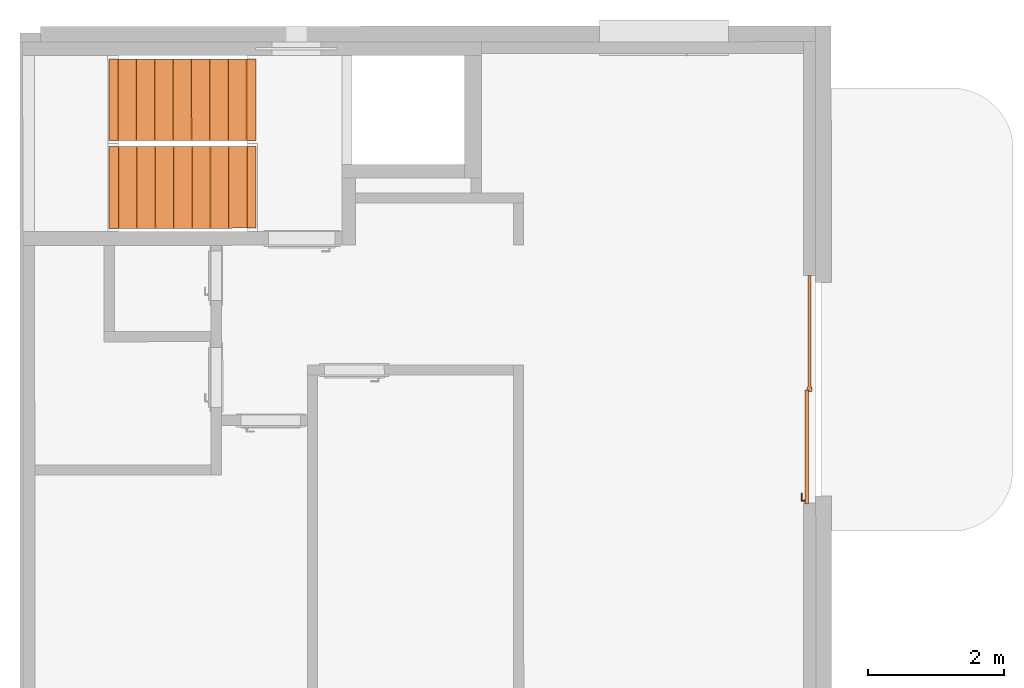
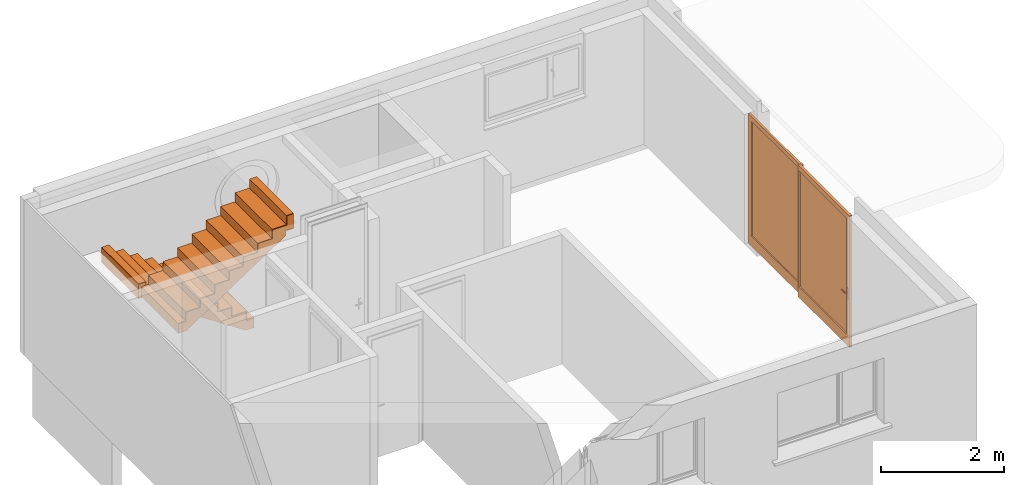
# One storey, part 7 of 9: 5 proxies.
"""IFC2X3 building model written with IfcOpenShell, lengths in metres."""

from ifc_helpers import new_model, entity, si_unit, converted_unit, derived_unit, direction, frame, origin, origin_with_axes, place, context, subcontext, project, spatial, closed_shell, open_shell, faceted_brep, surface_model, source, transform, mapped, element, save


model = new_model("IFC2X3")

# Units and contexts
model_context = context("Model", 3, precision=1e-05, world=origin(), true_north=direction((0.772621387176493, -0.634867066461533)))
body_context = subcontext(model_context, "Body", "Model", "MODEL_VIEW")
ifc_project = project(units=[si_unit("LENGTHUNIT", "METRE"), si_unit("AREAUNIT", "SQUARE_METRE"), si_unit("VOLUMEUNIT", "CUBIC_METRE"), si_unit("MASSUNIT", "GRAM", prefix="KILO"), converted_unit("PLANEANGLEUNIT", "DEGREE", entity("IfcPlaneAngleMeasure", 0.0174532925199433), si_unit("PLANEANGLEUNIT", "RADIAN"), dimensions=[0, 0, 0, 0, 0, 0, 0]), derived_unit("THERMALTRANSMITTANCEUNIT", [(si_unit("POWERUNIT", "WATT"), 1), (si_unit("THERMODYNAMICTEMPERATUREUNIT", "KELVIN"), -1), (si_unit("LENGTHUNIT", "METRE"), -2)]), derived_unit("VOLUMETRICFLOWRATEUNIT", [(si_unit("LENGTHUNIT", "METRE"), 3), (converted_unit("TIMEUNIT", "hour", entity("IfcTimeMeasure", 3600.0), si_unit("TIMEUNIT", "SECOND"), dimensions=[0, 0, 1, 0, 0, 0, 0]), -1), (si_unit("LENGTHUNIT", "METRE"), -1)])], contexts=[model_context])

# Site, building, storey
site_placement = place(None, origin())
site = spatial("IfcSite", under=ifc_project, at=site_placement, Name="Modelle auf dem Nullpunkt", CompositionType="ELEMENT")
building_placement = place(site_placement, origin())
building = spatial("IfcBuilding", under=site, at=building_placement, Name="I", CompositionType="ELEMENT")
storey_placement = place(building_placement, origin())
storey = spatial("IfcBuildingStorey", under=building, at=storey_placement, Name="1.OG", CompositionType="ELEMENT", Elevation=0.0)

# Proxies
shared_shape = source(origin_with_axes(), body_context, "Body", "SurfaceModel", [
    surface_model("IfcShellBasedSurfaceModel", [(1.65500000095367, 0.0, 2.59), (1.72500000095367, 0.0, 2.59), (1.72500000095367, 0.0, 0.02), (1.65500000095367, 0.0, 0.02), (1.65500000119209, 0.0699999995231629, 0.02), (1.72500000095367, 0.0699999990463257, 0.02), (1.72500000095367, 0.0699999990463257, 2.59), (1.65500000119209, 0.0699999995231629, 2.59)], [closed_shell([[[0, 1, 2, 3]], [[4, 5, 6, 7]], [[3, 4, 7, 0]], [[2, 5, 4, 3]], [[1, 6, 5, 2]], [[0, 7, 6, 1]]], orient=[[False], [False], [False], [False], [False], [False]])]),
    surface_model("IfcShellBasedSurfaceModel", [(0.0, 0.0499999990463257, 2.61), (0.100000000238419, 0.0499999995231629, 2.61), (0.100000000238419, 0.0499999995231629, 0.0), (0.0, 0.0499999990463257, 0.0), (0.0, 0.0999999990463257, 0.0), (0.1, 0.0999999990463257, 0.0), (0.1, 0.0999999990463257, 2.61), (0.0, 0.0999999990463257, 2.61)], [closed_shell([[[0, 1, 2, 3]], [[4, 5, 6, 7]], [[3, 4, 7, 0]], [[2, 5, 4, 3]], [[1, 6, 5, 2]], [[0, 7, 6, 1]]], orient=[[False], [False], [False], [False], [False], [False]])]),
    surface_model("IfcShellBasedSurfaceModel", [(1.63500000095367, 0.0499999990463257, 2.61), (1.67500000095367, 0.0499999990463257, 2.61), (1.67500000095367, 0.0499999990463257, 0.0), (1.63500000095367, 0.0499999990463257, 0.0), (1.63500000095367, 0.0999999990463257, 0.0), (1.67500000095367, 0.0999999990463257, 0.0), (1.67500000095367, 0.0999999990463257, 2.61), (1.63500000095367, 0.0999999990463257, 2.61)], [closed_shell([[[0, 1, 2, 3]], [[4, 5, 6, 7]], [[3, 4, 7, 0]], [[2, 5, 4, 3]], [[1, 6, 5, 2]], [[0, 7, 6, 1]]], orient=[[False], [False], [False], [False], [False], [False]])]),
    surface_model("IfcShellBasedSurfaceModel", [(0.100000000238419, 0.0499999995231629, 0.21), (1.63500000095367, 0.0499999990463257, 0.21), (1.63500000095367, 0.0499999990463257, 0.0), (0.100000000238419, 0.0499999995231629, 0.0), (0.1, 0.0999999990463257, 0.0), (1.63500000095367, 0.0999999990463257, 0.0), (1.63500000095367, 0.0999999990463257, 0.21), (0.1, 0.0999999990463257, 0.21)], [closed_shell([[[0, 1, 2, 3]], [[4, 5, 6, 7]], [[3, 4, 7, 0]], [[2, 5, 4, 3]], [[1, 6, 5, 2]], [[0, 7, 6, 1]]], orient=[[False], [False], [False], [False], [False], [False]])]),
    surface_model("IfcShellBasedSurfaceModel", [(0.100000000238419, 0.0499999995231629, 2.61), (1.63500000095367, 0.0499999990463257, 2.61), (1.63500000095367, 0.0499999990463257, 2.51), (0.100000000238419, 0.0499999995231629, 2.51), (0.1, 0.0999999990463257, 2.51), (1.63500000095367, 0.0999999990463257, 2.51), (1.63500000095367, 0.0999999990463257, 2.61), (0.1, 0.0999999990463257, 2.61)], [closed_shell([[[0, 1, 2, 3]], [[4, 5, 6, 7]], [[3, 4, 7, 0]], [[2, 5, 4, 3]], [[1, 6, 5, 2]], [[0, 7, 6, 1]]], orient=[[False], [False], [False], [False], [False], [False]])]),
    surface_model("IfcShellBasedSurfaceModel", [(0.0250000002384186, 0.0999999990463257, 1.145), (0.0750000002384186, 0.0999999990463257, 1.145), (0.0750000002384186, 0.0999999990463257, 0.93), (0.0250000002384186, 0.0999999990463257, 0.93), (0.0250000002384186, 0.109999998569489, 0.93), (0.0750000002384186, 0.109999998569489, 0.93), (0.0750000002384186, 0.109999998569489, 1.145), (0.0250000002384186, 0.109999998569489, 1.145)], [closed_shell([[[0, 1, 2, 3]], [[4, 5, 6, 7]], [[3, 4, 7, 0]], [[2, 5, 4, 3]], [[1, 6, 5, 2]], [[0, 7, 6, 1]]], orient=[[False], [False], [False], [False], [False], [False]])]),
    surface_model("IfcShellBasedSurfaceModel", [(0.05, 0.109999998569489, 1.08), (0.0550000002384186, 0.109999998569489, 1.07866025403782), (0.058660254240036, 0.109999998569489, 1.075), (0.0600000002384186, 0.109999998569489, 1.07), (0.058660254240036, 0.109999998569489, 1.065), (0.0550000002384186, 0.109999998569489, 1.06133974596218), (0.05, 0.109999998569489, 1.06), (0.0450000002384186, 0.109999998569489, 1.06133974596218), (0.0413397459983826, 0.109999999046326, 1.065), (0.0400000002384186, 0.109999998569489, 1.07), (0.0413397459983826, 0.109999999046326, 1.075), (0.0450000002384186, 0.109999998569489, 1.07866025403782), (0.045, 0.154999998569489, 1.07866025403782), (0.0500000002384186, 0.149999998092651, 1.08), (0.0413397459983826, 0.158660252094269, 1.075), (0.04, 0.159999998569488, 1.07), (0.0413397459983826, 0.158660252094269, 1.065), (0.045, 0.154999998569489, 1.06133974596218), (0.0500000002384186, 0.149999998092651, 1.06), (0.0550000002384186, 0.144999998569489, 1.06133974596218), (0.058660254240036, 0.141339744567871, 1.065), (0.0600000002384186, 0.139999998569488, 1.07), (0.058660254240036, 0.141339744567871, 1.075), (0.0550000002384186, 0.144999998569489, 1.07866025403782), (0.165000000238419, 0.149999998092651, 1.08), (0.165000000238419, 0.154999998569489, 1.07866025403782), (0.165000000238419, 0.158660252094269, 1.075), (0.165000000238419, 0.159999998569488, 1.07), (0.165000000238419, 0.158660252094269, 1.065), (0.165000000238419, 0.154999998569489, 1.06133974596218), (0.165000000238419, 0.149999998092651, 1.06), (0.165000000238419, 0.144999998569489, 1.06133974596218), (0.165000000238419, 0.141339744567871, 1.065), (0.165000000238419, 0.139999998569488, 1.07), (0.165000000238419, 0.141339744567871, 1.075), (0.165000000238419, 0.144999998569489, 1.07866025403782)], [closed_shell([[[0, 1, 2, 3, 4, 5, 6, 7, 8, 9, 10, 11]], [[0, 11, 12, 13]], [[11, 10, 14, 12]], [[10, 9, 15, 14]], [[9, 8, 16, 15]], [[8, 7, 17, 16]], [[7, 6, 18, 17]], [[6, 5, 19, 18]], [[5, 4, 20, 19]], [[4, 3, 21, 20]], [[3, 2, 22, 21]], [[2, 1, 23, 22]], [[1, 0, 13, 23]], [[24, 25, 26, 27, 28, 29, 30, 31, 32, 33, 34, 35]], [[13, 12, 25, 24]], [[12, 14, 26, 25]], [[14, 15, 27, 26]], [[15, 16, 28, 27]], [[16, 17, 29, 28]], [[17, 18, 30, 29]], [[18, 19, 31, 30]], [[19, 20, 32, 31]], [[20, 21, 33, 32]], [[21, 22, 34, 33]], [[22, 23, 35, 34]], [[23, 13, 24, 35]]], orient=[[False], [False], [False], [False], [False], [False], [False], [False], [False], [False], [False], [False], [False], [False], [False], [False], [False], [False], [False], [False], [False], [False], [False], [False], [False], [False]])]),
    surface_model("IfcShellBasedSurfaceModel", [(1.72500000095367, 0.015, 2.59), (1.74500000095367, 0.015, 2.59), (1.74500000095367, 0.015, 0.02), (1.72500000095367, 0.015, 0.02), (1.72500000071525, 0.0549999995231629, 0.02), (1.74500000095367, 0.0549999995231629, 0.02), (1.74500000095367, 0.0549999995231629, 2.59), (1.72500000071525, 0.0549999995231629, 2.59)], [closed_shell([[[0, 1, 2, 3]], [[4, 5, 6, 7]], [[3, 4, 7, 0]], [[2, 5, 4, 3]], [[1, 6, 5, 2]], [[0, 7, 6, 1]]], orient=[[False], [False], [False], [False], [False], [False]])]),
    surface_model("IfcShellBasedSurfaceModel", [(3.26000000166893, 0.015, 2.59), (3.36000000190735, 0.0149999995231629, 2.59), (3.36000000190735, 0.0149999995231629, 0.02), (3.26000000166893, 0.015, 0.02), (3.26000000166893, 0.0549999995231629, 0.02), (3.36000000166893, 0.055, 0.02), (3.36000000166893, 0.055, 2.59), (3.26000000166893, 0.0549999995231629, 2.59)], [closed_shell([[[0, 1, 2, 3]], [[4, 5, 6, 7]], [[3, 4, 7, 0]], [[2, 5, 4, 3]], [[1, 6, 5, 2]], [[0, 7, 6, 1]]], orient=[[False], [False], [False], [False], [False], [False]])]),
    surface_model("IfcShellBasedSurfaceModel", [(1.74500000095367, 0.015, 0.22), (3.26000000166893, 0.015, 0.22), (3.26000000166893, 0.015, 0.02), (1.74500000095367, 0.015, 0.02), (1.74500000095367, 0.0549999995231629, 0.02), (3.26000000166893, 0.0549999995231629, 0.02), (3.26000000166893, 0.0549999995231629, 0.22), (1.74500000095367, 0.0549999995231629, 0.22)], [closed_shell([[[0, 1, 2, 3]], [[4, 5, 6, 7]], [[3, 4, 7, 0]], [[2, 5, 4, 3]], [[1, 6, 5, 2]], [[0, 7, 6, 1]]], orient=[[False], [False], [False], [False], [False], [False]])]),
    surface_model("IfcShellBasedSurfaceModel", [(1.74500000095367, 0.015, 2.59), (3.26000000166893, 0.015, 2.59), (3.26000000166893, 0.015, 2.5), (1.74500000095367, 0.015, 2.5), (1.74500000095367, 0.0549999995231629, 2.5), (3.26000000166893, 0.0549999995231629, 2.5), (3.26000000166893, 0.0549999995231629, 2.59), (1.74500000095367, 0.0549999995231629, 2.59)], [closed_shell([[[0, 1, 2, 3]], [[4, 5, 6, 7]], [[3, 4, 7, 0]], [[2, 5, 4, 3]], [[1, 6, 5, 2]], [[0, 7, 6, 1]]], orient=[[False], [False], [False], [False], [False], [False]])]),
    surface_model("IfcShellBasedSurfaceModel", [(0.100000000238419, 0.0749999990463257, 0.21), (0.100000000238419, 0.0749999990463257, 2.51), (1.63500000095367, 0.0749999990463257, 2.51), (1.63500000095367, 0.0749999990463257, 0.21)], [open_shell([[[0, 1, 2, 3]]], orient=[[False]])]),
    surface_model("IfcShellBasedSurfaceModel", [(1.74500000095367, 0.0349999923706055, 0.22), (1.74500000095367, 0.0349999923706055, 2.5), (3.26000000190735, 0.0349999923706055, 2.5), (3.26000000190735, 0.0349999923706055, 0.22)], [open_shell([[[0, 1, 2, 3]]], orient=[[False]])]),
])
proxy_1_placement = place(storey_placement, frame((40.9743506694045, -4.65928334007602, 438.8), z_axis=(0.0, 0.0, 1.0), x_axis=(-0.000353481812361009, 0.999999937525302, 0.0)))
element("IfcBuildingElementProxy", 1, at=proxy_1_placement, inside=storey, Name="1flg Weiß Blockzarge", context=body_context, shape_type="MappedRepresentation", body=[
    mapped(shared_shape, transform((0.0, 0.0, 0.0), x_axis=(1.0, 0.0, 0.0), y_axis=(0.0, 1.0, 0.0), z_axis=(0.0, 0.0, 1.0), scale=1.0)),
])
proxy_2_placement = place(storey_placement, frame((30.6378226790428, -0.602936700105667, 440.203258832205)))
element("IfcBuildingElementProxy", 2, at=proxy_2_placement, inside=storey, context=body_context, shape_type="Brep", body=[
    faceted_brep([(2.0350686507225, 1.20071928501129, 1.6167079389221), (2.0350686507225, 1.20071928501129, 1.43860688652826), (1.76506008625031, 1.20062384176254, 1.43860688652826), (1.76506008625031, 1.20062384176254, 1.26046397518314), (1.49505565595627, 1.20052840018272, 1.26046397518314), (1.49505565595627, 1.20052840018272, 1.08232054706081), (1.22504683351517, 1.20043295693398, 1.08232054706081), (1.22504683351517, 1.20043295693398, 0.904220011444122), (0.95504240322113, 1.20033751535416, 0.904220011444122), (0.95504240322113, 1.20033751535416, 0.726077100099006), (0.685054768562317, 1.2002420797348, 0.726077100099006), (0.685054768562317, 1.2002420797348, 0.547933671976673), (0.415045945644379, 1.20014663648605, 0.547933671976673), (0.415045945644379, 1.20014663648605, 0.369833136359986), (0.14503763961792, 1.20005119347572, 0.369833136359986), (0.14503763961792, 1.20005119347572, 0.191689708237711), (0.0, 1.19999992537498, 0.191689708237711), (0.0, 1.19999992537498, 0.0), (0.14503763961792, 1.20005119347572, 0.0), (2.00506637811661, 1.20070867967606, 1.22710445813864), (2.00506637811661, 1.20070867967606, 1.32857985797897), (2.16007368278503, 1.20076347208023, 1.32857985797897), (2.16007368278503, 1.20076347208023, 1.6167079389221), (2.03549282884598, 0.000719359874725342, 1.6167079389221), (2.16049786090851, 0.000763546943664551, 1.6167079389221), (2.16049786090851, 0.000763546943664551, 1.32857985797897), (2.00549055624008, 0.000708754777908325, 1.32857985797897), (2.00549055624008, 0.000708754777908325, 1.22710445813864), (0.145461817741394, 5.12683391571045e-05, 0.0), (0.000424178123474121, 0.0, 0.0), (0.000424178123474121, 0.0, 0.191689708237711), (0.145461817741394, 5.12683391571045e-05, 0.191689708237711), (0.145461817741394, 5.12683391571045e-05, 0.369833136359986), (0.415470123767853, 0.000146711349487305, 0.369833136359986), (0.415470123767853, 0.000146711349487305, 0.547933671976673), (0.685478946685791, 0.000242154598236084, 0.547933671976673), (0.685478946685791, 0.000242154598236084, 0.726077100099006), (0.955466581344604, 0.000337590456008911, 0.726077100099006), (0.955466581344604, 0.000337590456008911, 0.904220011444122), (1.22547101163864, 0.000433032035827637, 0.904220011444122), (1.22547101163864, 0.000433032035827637, 1.08232054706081), (1.49547983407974, 0.000528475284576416, 1.08232054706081), (1.49547983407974, 0.000528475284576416, 1.26046397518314), (1.76548426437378, 0.000623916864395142, 1.26046397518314), (1.76548426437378, 0.000623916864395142, 1.43860688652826), (2.03549282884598, 0.000719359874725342, 1.43860688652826)], [[[0, 1, 2, 3, 4, 5, 6, 7, 8, 9, 10, 11, 12, 13, 14, 15, 16, 17, 18, 19, 20, 21, 22]], [[23, 24, 25, 26, 27, 28, 29, 30, 31, 32, 33, 34, 35, 36, 37, 38, 39, 40, 41, 42, 43, 44, 45]], [[24, 23, 0, 22]], [[25, 24, 22, 21]], [[26, 25, 21, 20]], [[27, 26, 20, 19]], [[28, 27, 19, 18]], [[29, 28, 18, 17]], [[30, 29, 17, 16]], [[31, 30, 16, 15]], [[32, 31, 15, 14]], [[33, 32, 14, 13]], [[34, 33, 13, 12]], [[35, 34, 12, 11]], [[36, 35, 11, 10]], [[37, 36, 10, 9]], [[38, 37, 9, 8]], [[39, 38, 8, 7]], [[40, 39, 7, 6]], [[41, 40, 6, 5]], [[42, 41, 5, 4]], [[43, 42, 4, 3]], [[44, 43, 3, 2]], [[45, 44, 2, 1]], [[23, 45, 1, 0]]], orient=[[False], [False], [False], [False], [False], [False], [False], [False], [False], [False], [False], [False], [False], [False], [False], [False], [False], [False], [False], [False], [False], [False], [False], [False], [False]]),
])
proxy_3_placement = place(storey_placement, frame((30.6378226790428, -0.602936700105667, 440.394948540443)))
element("IfcBuildingElementProxy", 3, at=proxy_3_placement, inside=storey, context=body_context, shape_type="Brep", body=[
    faceted_brep([(2.02506927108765, 1.20071575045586, 1.43505145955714), (2.02506927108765, 1.20071575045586, 1.25690803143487), (1.75506070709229, 1.20062030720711, 1.25690803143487), (1.75506070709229, 1.20062030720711, 1.07876512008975), (1.48505627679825, 1.20052486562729, 1.07876512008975), (1.48505627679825, 1.20052486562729, 0.900664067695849), (1.21504745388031, 1.20042942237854, 0.900664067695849), (1.21504745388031, 1.20042942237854, 0.722521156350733), (0.94504302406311, 1.20033398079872, 0.722521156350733), (0.94504302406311, 1.20033398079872, 0.544378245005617), (0.675021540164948, 1.20023853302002, 0.544378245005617), (0.675021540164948, 1.20023853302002, 0.366234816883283), (0.405012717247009, 1.20014308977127, 0.366234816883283), (0.405012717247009, 1.20014308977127, 0.188134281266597), (0.135004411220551, 1.20004764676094, 0.188134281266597), (0.135004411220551, 1.20004764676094, 0.00999136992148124), (0.0, 1.19999992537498, 0.00999136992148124), (0.0, 1.19999992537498, 0.0), (0.14503763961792, 1.20005119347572, 0.0), (0.14503763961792, 1.20005119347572, 0.178143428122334), (0.415045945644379, 1.20014663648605, 0.178143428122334), (0.415045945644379, 1.20014663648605, 0.35624396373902), (0.685054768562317, 1.2002420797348, 0.35624396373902), (0.685054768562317, 1.2002420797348, 0.534387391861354), (0.95504240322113, 1.20033751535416, 0.534387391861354), (0.95504240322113, 1.20033751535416, 0.712530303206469), (1.22504683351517, 1.20043295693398, 0.712530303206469), (1.22504683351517, 1.20043295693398, 0.890630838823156), (1.49505565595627, 1.20052840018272, 0.890630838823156), (1.49505565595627, 1.20052840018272, 1.06877426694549), (1.76506008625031, 1.20062384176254, 1.06877426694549), (1.76506008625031, 1.20062384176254, 1.2469171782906), (2.0350686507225, 1.20071928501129, 1.2469171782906), (2.0350686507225, 1.20071928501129, 1.42501823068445), (2.16007368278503, 1.20076347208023, 1.42501823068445), (2.16007368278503, 1.20076347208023, 1.43505145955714), (2.02549344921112, 0.000715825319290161, 1.43505145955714), (2.16049786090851, 0.000763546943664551, 1.43505145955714), (2.16049786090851, 0.000763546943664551, 1.42501823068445), (2.03549282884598, 0.000719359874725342, 1.42501823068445), (2.03549282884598, 0.000719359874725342, 1.2469171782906), (1.76548426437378, 0.000623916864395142, 1.2469171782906), (1.76548426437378, 0.000623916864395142, 1.06877426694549), (1.49547983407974, 0.000528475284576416, 1.06877426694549), (1.49547983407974, 0.000528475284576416, 0.890630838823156), (1.22547101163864, 0.000433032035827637, 0.890630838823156), (1.22547101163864, 0.000433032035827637, 0.712530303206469), (0.955466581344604, 0.000337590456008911, 0.712530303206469), (0.955466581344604, 0.000337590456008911, 0.534387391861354), (0.685478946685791, 0.000242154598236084, 0.534387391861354), (0.685478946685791, 0.000242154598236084, 0.35624396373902), (0.415470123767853, 0.000146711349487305, 0.35624396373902), (0.415470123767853, 0.000146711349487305, 0.178143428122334), (0.145461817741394, 5.12683391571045e-05, 0.178143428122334), (0.145461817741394, 5.12683391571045e-05, 0.0), (0.000424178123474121, 0.0, 0.0), (0.000424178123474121, 0.0, 0.00999136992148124), (0.135428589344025, 4.77218627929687e-05, 0.00999136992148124), (0.135428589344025, 4.77218627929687e-05, 0.188134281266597), (0.405436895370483, 0.000143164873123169, 0.188134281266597), (0.405436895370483, 0.000143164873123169, 0.366234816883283), (0.675445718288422, 0.000238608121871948, 0.366234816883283), (0.675445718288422, 0.000238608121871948, 0.544378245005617), (0.945467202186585, 0.000334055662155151, 0.544378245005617), (0.945467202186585, 0.000334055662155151, 0.722521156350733), (1.21547163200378, 0.000429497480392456, 0.722521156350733), (1.21547163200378, 0.000429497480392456, 0.900664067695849), (1.48548045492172, 0.000524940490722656, 0.900664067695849), (1.48548045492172, 0.000524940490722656, 1.07876512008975), (1.75548488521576, 0.000620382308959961, 1.07876512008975), (1.75548488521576, 0.000620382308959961, 1.25690803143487), (2.02549344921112, 0.000715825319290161, 1.25690803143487)], [[[0, 1, 2, 3, 4, 5, 6, 7, 8, 9, 10, 11, 12, 13, 14, 15, 16, 17, 18, 19, 20, 21, 22, 23, 24, 25, 26, 27, 28, 29, 30, 31, 32, 33, 34, 35]], [[36, 37, 38, 39, 40, 41, 42, 43, 44, 45, 46, 47, 48, 49, 50, 51, 52, 53, 54, 55, 56, 57, 58, 59, 60, 61, 62, 63, 64, 65, 66, 67, 68, 69, 70, 71]], [[37, 36, 0, 35]], [[38, 37, 35, 34]], [[39, 38, 34, 33]], [[40, 39, 33, 32]], [[41, 40, 32, 31]], [[42, 41, 31, 30]], [[43, 42, 30, 29]], [[44, 43, 29, 28]], [[45, 44, 28, 27]], [[46, 45, 27, 26]], [[47, 46, 26, 25]], [[48, 47, 25, 24]], [[49, 48, 24, 23]], [[50, 49, 23, 22]], [[51, 50, 22, 21]], [[52, 51, 21, 20]], [[53, 52, 20, 19]], [[54, 53, 19, 18]], [[55, 54, 18, 17]], [[56, 55, 17, 16]], [[57, 56, 16, 15]], [[58, 57, 15, 14]], [[59, 58, 14, 13]], [[60, 59, 13, 12]], [[61, 60, 12, 11]], [[62, 61, 11, 10]], [[63, 62, 10, 9]], [[64, 63, 9, 8]], [[65, 64, 8, 7]], [[66, 65, 7, 6]], [[67, 66, 6, 5]], [[68, 67, 5, 4]], [[69, 68, 4, 3]], [[70, 69, 3, 2]], [[71, 70, 2, 1]], [[36, 71, 1, 0]]], orient=[[False], [False], [False], [False], [False], [False], [False], [False], [False], [False], [False], [False], [False], [False], [False], [False], [False], [False], [False], [False], [False], [False], [False], [False], [False], [False], [False], [False], [False], [False], [False], [False], [False], [False], [False], [False], [False], [False]]),
])
proxy_4_placement = place(storey_placement, frame((30.6373666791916, 0.68706321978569, 438.778318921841)))
element("IfcBuildingElementProxy", 4, at=proxy_4_placement, inside=storey, context=body_context, shape_type="Brep", body=[
    faceted_brep([(0.125005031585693, 1.20004411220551, 1.6167079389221), (0.0, 1.19999992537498, 1.6167079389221), (0.0, 1.19999992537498, 1.32857985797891), (0.155007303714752, 1.20005471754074, 1.32857985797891), (0.155007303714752, 1.20005471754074, 1.22710445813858), (2.01503604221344, 1.20071220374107, 0.0), (2.16007368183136, 1.20076347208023, 0.0), (2.16007368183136, 1.20076347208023, 0.191689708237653), (2.01503604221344, 1.20071220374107, 0.191689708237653), (2.01503604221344, 1.20071220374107, 0.369833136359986), (1.74502773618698, 1.20061676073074, 0.369833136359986), (1.74502773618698, 1.20061676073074, 0.547933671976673), (1.47501891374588, 1.20052131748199, 0.547933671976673), (1.47501891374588, 1.20052131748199, 0.726077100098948), (1.20503127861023, 1.20042588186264, 0.726077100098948), (1.20503127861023, 1.20042588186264, 0.904220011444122), (0.93502684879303, 1.20033044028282, 0.904220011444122), (0.93502684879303, 1.20033044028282, 1.08232054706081), (0.665018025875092, 1.20023499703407, 1.08232054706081), (0.665018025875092, 1.20023499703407, 1.26046397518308), (0.395013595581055, 1.20013955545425, 1.26046397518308), (0.395013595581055, 1.20013955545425, 1.43860688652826), (0.125005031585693, 1.20004411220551, 1.43860688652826), (0.125429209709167, 4.41873073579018e-05, 1.6167079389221), (0.125429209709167, 4.41873073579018e-05, 1.43860688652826), (0.395437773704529, 0.000139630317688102, 1.43860688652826), (0.395437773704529, 0.000139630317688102, 1.26046397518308), (0.665442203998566, 0.000235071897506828, 1.26046397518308), (0.665442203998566, 0.000235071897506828, 1.08232054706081), (0.935451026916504, 0.000330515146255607, 1.08232054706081), (0.935451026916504, 0.000330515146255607, 0.904220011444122), (1.2054554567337, 0.000425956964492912, 0.904220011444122), (1.2054554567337, 0.000425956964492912, 0.726077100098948), (1.47544309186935, 0.00052139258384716, 0.726077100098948), (1.47544309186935, 0.00052139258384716, 0.547933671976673), (1.74545191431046, 0.000616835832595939, 0.547933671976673), (1.74545191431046, 0.000616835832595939, 0.369833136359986), (2.01546022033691, 0.000712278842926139, 0.369833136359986), (2.01546022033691, 0.000712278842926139, 0.191689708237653), (2.16049785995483, 0.000763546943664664, 0.191689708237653), (2.16049785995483, 0.000763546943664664, 0.0), (2.01546022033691, 0.000712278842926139, 0.0), (0.155431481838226, 5.47924041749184e-05, 1.22710445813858), (0.155431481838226, 5.47924041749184e-05, 1.32857985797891), (0.000424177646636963, 0.0, 1.32857985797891), (0.000424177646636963, 0.0, 1.6167079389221)], [[[0, 1, 2, 3, 4, 5, 6, 7, 8, 9, 10, 11, 12, 13, 14, 15, 16, 17, 18, 19, 20, 21, 22]], [[23, 24, 25, 26, 27, 28, 29, 30, 31, 32, 33, 34, 35, 36, 37, 38, 39, 40, 41, 42, 43, 44, 45]], [[45, 1, 0, 23]], [[44, 2, 1, 45]], [[43, 3, 2, 44]], [[42, 4, 3, 43]], [[41, 5, 4, 42]], [[40, 6, 5, 41]], [[39, 7, 6, 40]], [[38, 8, 7, 39]], [[37, 9, 8, 38]], [[36, 10, 9, 37]], [[35, 11, 10, 36]], [[34, 12, 11, 35]], [[33, 13, 12, 34]], [[32, 14, 13, 33]], [[31, 15, 14, 32]], [[30, 16, 15, 31]], [[29, 17, 16, 30]], [[28, 18, 17, 29]], [[27, 19, 18, 28]], [[26, 20, 19, 27]], [[25, 21, 20, 26]], [[24, 22, 21, 25]], [[23, 0, 22, 24]]], orient=[[False], [False], [False], [False], [False], [False], [False], [False], [False], [False], [False], [False], [False], [False], [False], [False], [False], [False], [False], [False], [False], [False], [False], [False], [False]]),
])
proxy_5_placement = place(storey_placement, frame((30.6373666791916, 0.68706321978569, 438.970008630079)))
element("IfcBuildingElementProxy", 5, at=proxy_5_placement, inside=storey, context=body_context, shape_type="Brep", body=[
    faceted_brep([(0.135004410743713, 1.20004764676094, 1.43505145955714), (0.0, 1.19999992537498, 1.43505145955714), (0.0, 1.19999992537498, 1.42501823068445), (0.125005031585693, 1.20004411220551, 1.42501823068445), (0.125005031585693, 1.20004411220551, 1.2469171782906), (0.395013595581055, 1.20013955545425, 1.2469171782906), (0.395013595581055, 1.20013955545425, 1.06877426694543), (0.665018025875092, 1.20023499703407, 1.06877426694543), (0.665018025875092, 1.20023499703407, 0.890630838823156), (0.93502684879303, 1.20033044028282, 0.890630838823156), (0.93502684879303, 1.20033044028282, 0.712530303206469), (1.20503127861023, 1.20042588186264, 0.712530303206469), (1.20503127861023, 1.20042588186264, 0.534387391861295), (1.47501891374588, 1.20052131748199, 0.534387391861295), (1.47501891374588, 1.20052131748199, 0.35624396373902), (1.74502773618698, 1.20061676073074, 0.35624396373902), (1.74502773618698, 1.20061676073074, 0.178143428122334), (2.01503604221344, 1.20071220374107, 0.178143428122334), (2.01503604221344, 1.20071220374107, 0.0), (2.16007368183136, 1.20076347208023, 0.0), (2.16007368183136, 1.20076347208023, 0.00999136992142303), (2.02506927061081, 1.20071575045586, 0.00999136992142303), (2.02506927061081, 1.20071575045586, 0.188134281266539), (1.75506096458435, 1.20062030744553, 0.188134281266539), (1.75506096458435, 1.20062030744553, 0.366234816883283), (1.48505214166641, 1.20052486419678, 0.366234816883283), (1.48505214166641, 1.20052486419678, 0.544378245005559), (1.21503065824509, 1.20042941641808, 0.544378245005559), (1.21503065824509, 1.20042941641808, 0.722521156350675), (0.94502622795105, 1.20033397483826, 0.722521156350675), (0.94502622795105, 1.20033397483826, 0.900664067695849), (0.675017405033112, 1.20023853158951, 0.900664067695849), (0.675017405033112, 1.20023853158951, 1.07876512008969), (0.405012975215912, 1.20014309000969, 1.07876512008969), (0.405012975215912, 1.20014309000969, 1.25690803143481), (0.135004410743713, 1.20004764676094, 1.25690803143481), (0.135428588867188, 4.77218627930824e-05, 1.43505145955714), (0.135428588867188, 4.77218627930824e-05, 1.25690803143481), (0.405437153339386, 0.000143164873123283, 1.25690803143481), (0.405437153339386, 0.000143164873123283, 1.07876512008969), (0.675441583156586, 0.000238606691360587, 1.07876512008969), (0.675441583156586, 0.000238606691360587, 0.900664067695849), (0.945450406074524, 0.000334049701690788, 0.900664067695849), (0.945450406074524, 0.000334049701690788, 0.722521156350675), (1.21545483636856, 0.000429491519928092, 0.722521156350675), (1.21545483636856, 0.000429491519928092, 0.544378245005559), (1.48547631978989, 0.000524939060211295, 0.544378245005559), (1.48547631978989, 0.000524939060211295, 0.366234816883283), (1.75548514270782, 0.000620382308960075, 0.366234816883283), (1.75548514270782, 0.000620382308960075, 0.188134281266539), (2.02549344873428, 0.000715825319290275, 0.188134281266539), (2.02549344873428, 0.000715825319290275, 0.00999136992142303), (2.16049785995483, 0.000763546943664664, 0.00999136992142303), (2.16049785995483, 0.000763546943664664, 0.0), (2.01546022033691, 0.000712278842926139, 0.0), (2.01546022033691, 0.000712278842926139, 0.178143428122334), (1.74545191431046, 0.000616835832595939, 0.178143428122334), (1.74545191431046, 0.000616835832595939, 0.35624396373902), (1.47544309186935, 0.00052139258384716, 0.35624396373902), (1.47544309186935, 0.00052139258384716, 0.534387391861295), (1.2054554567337, 0.000425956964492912, 0.534387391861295), (1.2054554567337, 0.000425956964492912, 0.712530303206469), (0.935451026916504, 0.000330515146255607, 0.712530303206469), (0.935451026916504, 0.000330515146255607, 0.890630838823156), (0.665442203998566, 0.000235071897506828, 0.890630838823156), (0.665442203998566, 0.000235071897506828, 1.06877426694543), (0.395437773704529, 0.000139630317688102, 1.06877426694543), (0.395437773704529, 0.000139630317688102, 1.2469171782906), (0.125429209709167, 4.41873073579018e-05, 1.2469171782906), (0.125429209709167, 4.41873073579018e-05, 1.42501823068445), (0.000424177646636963, 0.0, 1.42501823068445), (0.000424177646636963, 0.0, 1.43505145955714)], [[[0, 1, 2, 3, 4, 5, 6, 7, 8, 9, 10, 11, 12, 13, 14, 15, 16, 17, 18, 19, 20, 21, 22, 23, 24, 25, 26, 27, 28, 29, 30, 31, 32, 33, 34, 35]], [[36, 37, 38, 39, 40, 41, 42, 43, 44, 45, 46, 47, 48, 49, 50, 51, 52, 53, 54, 55, 56, 57, 58, 59, 60, 61, 62, 63, 64, 65, 66, 67, 68, 69, 70, 71]], [[71, 1, 0, 36]], [[70, 2, 1, 71]], [[69, 3, 2, 70]], [[68, 4, 3, 69]], [[67, 5, 4, 68]], [[66, 6, 5, 67]], [[65, 7, 6, 66]], [[64, 8, 7, 65]], [[63, 9, 8, 64]], [[62, 10, 9, 63]], [[61, 11, 10, 62]], [[60, 12, 11, 61]], [[59, 13, 12, 60]], [[58, 14, 13, 59]], [[57, 15, 14, 58]], [[56, 16, 15, 57]], [[55, 17, 16, 56]], [[54, 18, 17, 55]], [[53, 19, 18, 54]], [[52, 20, 19, 53]], [[51, 21, 20, 52]], [[50, 22, 21, 51]], [[49, 23, 22, 50]], [[48, 24, 23, 49]], [[47, 25, 24, 48]], [[46, 26, 25, 47]], [[45, 27, 26, 46]], [[44, 28, 27, 45]], [[43, 29, 28, 44]], [[42, 30, 29, 43]], [[41, 31, 30, 42]], [[40, 32, 31, 41]], [[39, 33, 32, 40]], [[38, 34, 33, 39]], [[37, 35, 34, 38]], [[36, 0, 35, 37]]], orient=[[False], [False], [False], [False], [False], [False], [False], [False], [False], [False], [False], [False], [False], [False], [False], [False], [False], [False], [False], [False], [False], [False], [False], [False], [False], [False], [False], [False], [False], [False], [False], [False], [False], [False], [False], [False], [False], [False]]),
])

save(model, "model.ifc")
